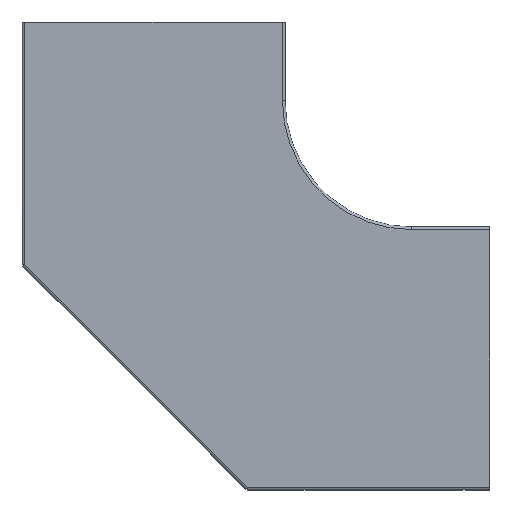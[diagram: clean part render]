
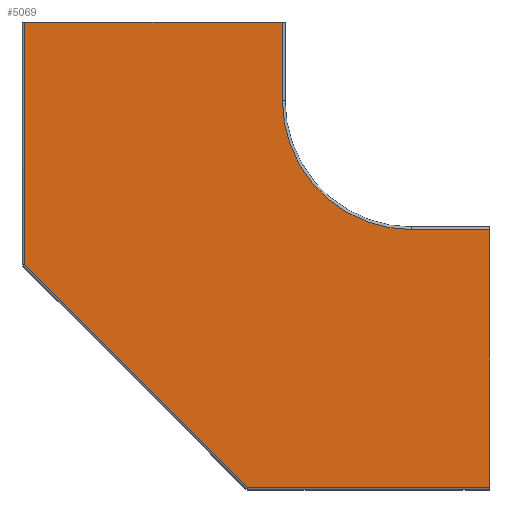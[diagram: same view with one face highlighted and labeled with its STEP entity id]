
A CAD part, front view. The second image highlights one B-rep face of the part: STEP entity #5069.
In plain terms, the highlighted planar face has unit normal (0, -1, 0).
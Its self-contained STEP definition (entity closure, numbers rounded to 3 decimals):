
#103 = VERTEX_POINT ( 'NONE', #2260 ) ;
#151 = EDGE_CURVE ( 'NONE', #3382, #1341, #2683, .T. ) ;
#162 = EDGE_CURVE ( 'NONE', #103, #907, #4470, .T. ) ;
#308 = DIRECTION ( 'NONE',  ( 0., 0., -1. ) ) ;
#357 = DIRECTION ( 'NONE',  ( 0., -1., 0. ) ) ;
#435 = CARTESIAN_POINT ( 'NONE',  ( 0., 0., 0. ) ) ;
#480 = DIRECTION ( 'NONE',  ( 0., 0., 1. ) ) ;
#502 = VECTOR ( 'NONE', #1464, 1000. ) ;
#554 = AXIS2_PLACEMENT_3D ( 'NONE', #1203, #783, #308 ) ;
#581 = CARTESIAN_POINT ( 'NONE',  ( 0., 0., 0. ) ) ;
#645 = CIRCLE ( 'NONE', #554, 100. ) ;
#694 = CARTESIAN_POINT ( 'NONE',  ( 300., 0., -61. ) ) ;
#778 = ORIENTED_EDGE ( 'NONE', *, *, #4789, .F. ) ;
#783 = DIRECTION ( 'NONE',  ( 0., -1., 0. ) ) ;
#897 = CARTESIAN_POINT ( 'NONE',  ( 361., 0., -161. ) ) ;
#907 = VERTEX_POINT ( 'NONE', #435 ) ;
#928 = CARTESIAN_POINT ( 'NONE',  ( 0., 0., -188. ) ) ;
#973 = LINE ( 'NONE', #3929, #2193 ) ;
#1004 = DIRECTION ( 'NONE',  ( -1., 0., 0. ) ) ;
#1069 = EDGE_CURVE ( 'NONE', #907, #4221, #4362, .T. ) ;
#1178 = VECTOR ( 'NONE', #4839, 1000. ) ;
#1203 = CARTESIAN_POINT ( 'NONE',  ( 300., 0., -61. ) ) ;
#1246 = CARTESIAN_POINT ( 'NONE',  ( 200., 0., -61. ) ) ;
#1271 = VECTOR ( 'NONE', #480, 1000. ) ;
#1315 = AXIS2_PLACEMENT_3D ( 'NONE', #694, #357, #2081 ) ;
#1318 = ORIENTED_EDGE ( 'NONE', *, *, #1069, .F. ) ;
#1328 = CARTESIAN_POINT ( 'NONE',  ( 300., 0., -161. ) ) ;
#1341 = VERTEX_POINT ( 'NONE', #2139 ) ;
#1464 = DIRECTION ( 'NONE',  ( -0.707, 0., 0.707 ) ) ;
#1562 = ORIENTED_EDGE ( 'NONE', *, *, #3928, .F. ) ;
#1627 = FACE_OUTER_BOUND ( 'NONE', #5293, .T. ) ;
#1694 = CARTESIAN_POINT ( 'NONE',  ( 200., 0., 0. ) ) ;
#1803 = CARTESIAN_POINT ( 'NONE',  ( 361., 0., -361. ) ) ;
#1924 = ORIENTED_EDGE ( 'NONE', *, *, #151, .F. ) ;
#1942 = VECTOR ( 'NONE', #2297, 1000. ) ;
#1981 = EDGE_CURVE ( 'NONE', #3353, #4716, #645, .T. ) ;
#2081 = DIRECTION ( 'NONE',  ( 0., 0., -1. ) ) ;
#2139 = CARTESIAN_POINT ( 'NONE',  ( 173., 0., -361. ) ) ;
#2193 = VECTOR ( 'NONE', #5221, 1000. ) ;
#2260 = CARTESIAN_POINT ( 'NONE',  ( 0., 0., -188. ) ) ;
#2264 = EDGE_CURVE ( 'NONE', #4716, #5473, #973, .T. ) ;
#2268 = CARTESIAN_POINT ( 'NONE',  ( 200., 0., 0. ) ) ;
#2297 = DIRECTION ( 'NONE',  ( 0., 0., -1. ) ) ;
#2344 = CARTESIAN_POINT ( 'NONE',  ( 361., 0., -161. ) ) ;
#2510 = PLANE ( 'NONE',  #1315 ) ;
#2683 = LINE ( 'NONE', #5278, #3162 ) ;
#2879 = LINE ( 'NONE', #2344, #4288 ) ;
#2922 = ORIENTED_EDGE ( 'NONE', *, *, #1981, .F. ) ;
#3053 = LINE ( 'NONE', #2268, #1942 ) ;
#3162 = VECTOR ( 'NONE', #1004, 1000. ) ;
#3353 = VERTEX_POINT ( 'NONE', #1246 ) ;
#3382 = VERTEX_POINT ( 'NONE', #1803 ) ;
#3492 = ORIENTED_EDGE ( 'NONE', *, *, #2264, .F. ) ;
#3533 = CARTESIAN_POINT ( 'NONE',  ( 0., 0., 0. ) ) ;
#3928 = EDGE_CURVE ( 'NONE', #5473, #3382, #2879, .T. ) ;
#3929 = CARTESIAN_POINT ( 'NONE',  ( 300., 0., -161. ) ) ;
#4221 = VERTEX_POINT ( 'NONE', #1694 ) ;
#4288 = VECTOR ( 'NONE', #4621, 1000. ) ;
#4362 = LINE ( 'NONE', #3533, #1178 ) ;
#4390 = LINE ( 'NONE', #928, #502 ) ;
#4425 = ORIENTED_EDGE ( 'NONE', *, *, #162, .F. ) ;
#4470 = LINE ( 'NONE', #581, #1271 ) ;
#4621 = DIRECTION ( 'NONE',  ( 0., 0., -1. ) ) ;
#4716 = VERTEX_POINT ( 'NONE', #1328 ) ;
#4789 = EDGE_CURVE ( 'NONE', #1341, #103, #4390, .T. ) ;
#4839 = DIRECTION ( 'NONE',  ( 1., 0., 0. ) ) ;
#5069 = ADVANCED_FACE ( 'NONE', ( #1627 ), #2510, .T. ) ;
#5221 = DIRECTION ( 'NONE',  ( 1., 0., 0. ) ) ;
#5258 = EDGE_CURVE ( 'NONE', #4221, #3353, #3053, .T. ) ;
#5278 = CARTESIAN_POINT ( 'NONE',  ( 173., 0., -361. ) ) ;
#5293 = EDGE_LOOP ( 'NONE', ( #4425, #778, #1924, #1562, #3492, #2922, #5491, #1318 ) ) ;
#5473 = VERTEX_POINT ( 'NONE', #897 ) ;
#5491 = ORIENTED_EDGE ( 'NONE', *, *, #5258, .F. ) ;
